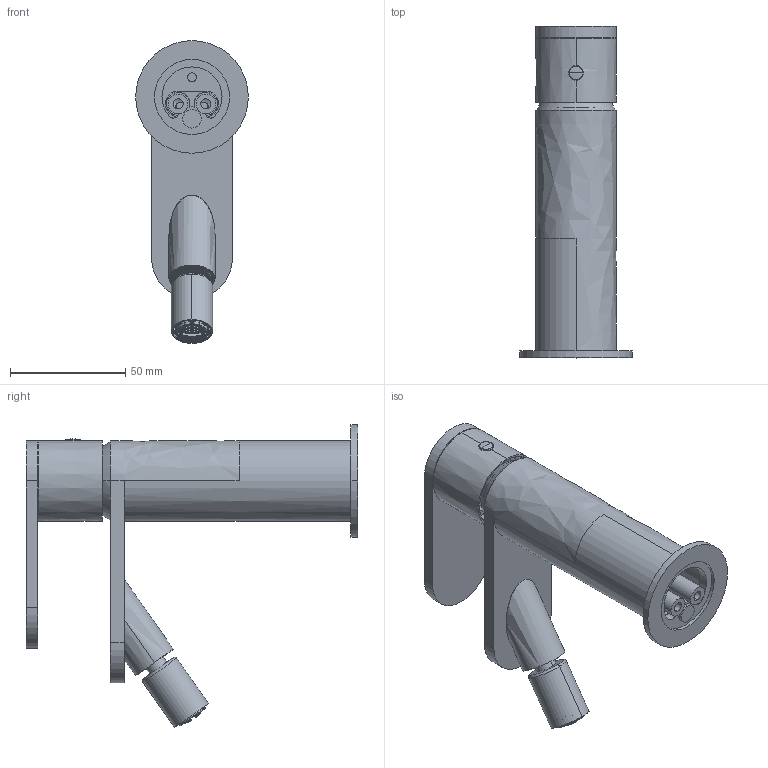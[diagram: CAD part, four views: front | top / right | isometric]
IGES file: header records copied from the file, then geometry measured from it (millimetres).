
Start section:  PTC IGES file: 79080.igs
Global section: file name: 79080.igs; native system: Creo Parametric by PTC Inc.; preprocessor: 2025443; author: carloff; organization: Unknown; date: 20261005.150848; units: millimetre
Bounding box: 48.8 x 143.74 x 131.16 mm (x, y, z)
Surface area: 82434.4 mm2 (no closed solid volume)
Topology: 0 solids, 0 shells, 3709 faces, 21115 edges, 21038 vertices
Faces by surface type: bspline 2279, revolution 1427, extrusion 3
